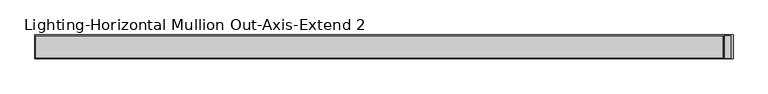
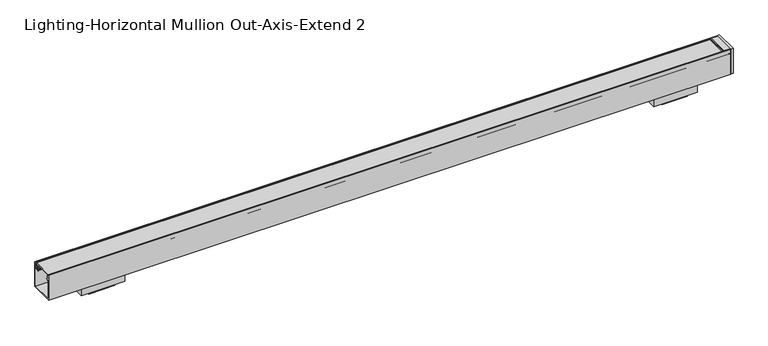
"""IFC4 building model written with IfcOpenShell, lengths in millimetres: light fixture geometry, Lighting-Horizontal Mullion Out-Axis-Extend 2 : EX2WD-900-80-35-SO-4."""

import ifcopenshell
import ifcopenshell.guid

model = None  # the IFC model being written
_history = None  # IfcOwnerHistory: only IFC2X3 demands one
_inside = {}  # id of a spatial element -> (the spatial element, [elements in it])
_under = {}  # id of a project, library or spatial element -> (it, [spatial elements below it])
_declared = {}  # id of a project -> (the project, [libraries it declares])
_typed = {}  # id of a type object -> (the type object, [elements of that type])
_made_of = {}  # id of a material, layer set ... -> (it, [elements and type objects made of it])


def new_model(schema):
    """Start an empty IFC model of exactly this schema.

    Asked for "IFC4X3", IfcOpenShell would pick the latest addendum, in which some entities
    have other attributes; the version numbers below select the first issue.
    IFC2X3 requires an IfcOwnerHistory on every rooted entity: one is made here for all.
    """
    global model, _history
    if schema == "IFC4X3":
        model = ifcopenshell.file(schema_version=(4, 3, 0, 0))
    else:
        model = ifcopenshell.file(schema=schema)
    _inside.clear()
    _under.clear()
    _declared.clear()
    _typed.clear()
    _made_of.clear()
    _history = None
    if model.schema == "IFC2X3":
        org = make("IfcOrganization", Name="unknown")
        user = make(
            "IfcPersonAndOrganization",
            ThePerson=make("IfcPerson", FamilyName="unknown"),
            TheOrganization=org,
        )
        app = make(
            "IfcApplication",
            ApplicationDeveloper=org,
            Version="unknown",
            ApplicationFullName="unknown",
            ApplicationIdentifier="unknown",
        )
        _history = make(
            "IfcOwnerHistory",
            OwningUser=user,
            OwningApplication=app,
            ChangeAction="ADDED",
            CreationDate=0,
        )
    return model


def make(cls, **values):
    """One entity of the class cls with the attributes given. An attribute that is None is left unset."""
    return model.create_entity(
        cls, **{name: value for name, value in values.items() if value is not None}
    )


def rooted(cls, **values):
    """An entity with a GlobalId (a new one), such as an element, a storey or a relation."""
    return make(cls, GlobalId=ifcopenshell.guid.new(), OwnerHistory=_history, **values)


def si_unit(unit_type, name, prefix=None):
    """IfcSIUnit, for example si_unit("LENGTHUNIT", "METRE", prefix="MILLI")."""
    return make("IfcSIUnit", UnitType=unit_type, Prefix=prefix, Name=name)


def assignment(units):
    """IfcUnitAssignment: the units of a project."""
    return None if units is None else make("IfcUnitAssignment", Units=units)


def point(xyz):
    """IfcCartesianPoint."""
    return None if xyz is None else make("IfcCartesianPoint", Coordinates=xyz)


def direction(xyz):
    """IfcDirection."""
    return None if xyz is None else make("IfcDirection", DirectionRatios=xyz)


def frame(location, z_axis=None, x_axis=None):
    """IfcAxis2Placement3D, a coordinate frame: its origin and axes. An axis left out is left unset."""
    return make(
        "IfcAxis2Placement3D",
        Location=point(location),
        Axis=direction(z_axis),
        RefDirection=direction(x_axis),
    )


def frame_2d(location, x_axis=None):
    """IfcAxis2Placement2D, a coordinate frame in the plane: its origin and x axis."""
    return make(
        "IfcAxis2Placement2D", Location=point(location), RefDirection=direction(x_axis)
    )


def origin():
    """The frame at (0, 0, 0) with its axes left unset."""
    return frame((0.0, 0.0, 0.0))


def place(relative_to, where):
    """IfcLocalPlacement: puts the frame where relative to a parent placement (None: the world)."""
    return make(
        "IfcLocalPlacement", PlacementRelTo=relative_to, RelativePlacement=where
    )


def context(
    kind, dimensions, precision=None, world=None, true_north=None, identifier=None
):
    """IfcGeometricRepresentationContext, for example the 3D "Model" context."""
    return make(
        "IfcGeometricRepresentationContext",
        ContextIdentifier=identifier,
        ContextType=kind,
        CoordinateSpaceDimension=dimensions,
        Precision=precision,
        WorldCoordinateSystem=world,
        TrueNorth=true_north,
    )


def project(units=None, contexts=None):
    """IfcProject with its units and contexts."""
    return rooted(
        "IfcProject",
        Name="project",
        RepresentationContexts=contexts,
        UnitsInContext=assignment(units),
    )


def spatial(cls, under=None, at=None, **own):
    """A site, building, storey or space (cls), placed at a placement, below another one or the project."""
    s = rooted(cls, ObjectPlacement=at, **own)
    if under is not None:
        _under.setdefault(under.id(), (under, []))[1].append(s)
    return s


def polyline(points):
    """IfcPolyline through the points."""
    return make("IfcPolyline", Points=[point(p) for p in points])


def circle_curve(where, radius):
    """IfcCircle in the frame where."""
    return make("IfcCircle", Position=where, Radius=radius)


def trimmed(basis, trim1, trim2, sense, master):
    """IfcTrimmedCurve: the piece of a basis curve between two trims."""
    return make(
        "IfcTrimmedCurve",
        BasisCurve=basis,
        Trim1=trim1,
        Trim2=trim2,
        SenseAgreement=sense,
        MasterRepresentation=master,
    )


def segment(curve, same_sense, transition):
    """IfcCompositeCurveSegment."""
    return make(
        "IfcCompositeCurveSegment",
        Transition=transition,
        SameSense=same_sense,
        ParentCurve=curve,
    )


def composite_curve(segments, self_intersect=None):
    """IfcCompositeCurve: segments joined end to end."""
    return make("IfcCompositeCurve", Segments=segments, SelfIntersect=self_intersect)


def outline(outer, holes=None, kind="AREA"):
    """IfcArbitraryClosedProfileDef: a profile drawn as a closed curve; with holes, ...WithVoids."""
    if holes is None:
        return make("IfcArbitraryClosedProfileDef", ProfileType=kind, OuterCurve=outer)
    return make(
        "IfcArbitraryProfileDefWithVoids",
        ProfileType=kind,
        OuterCurve=outer,
        InnerCurves=holes,
    )


def extrude(swept, where, along, depth):
    """IfcExtrudedAreaSolid: the profile swept, set in the frame where, extruded along a direction by depth."""
    return make(
        "IfcExtrudedAreaSolid",
        SweptArea=swept,
        Position=where,
        ExtrudedDirection=direction(along),
        Depth=depth,
    )


def faces_of(points, faces, orient=None, outer=None):
    """IfcFace entities. A face is a list of loops; a loop is a list of indices into points, from 0.

    orient and outer hold one flag for each loop. By default every Orientation is true, the
    first loop of a face is its IfcFaceOuterBound and the others are IfcFaceBound.
    """
    made = []
    for i, loops in enumerate(faces):
        bounds = []
        for j, loop in enumerate(loops):
            is_outer = j == 0 if outer is None else outer[i][j]
            bounds.append(
                make(
                    "IfcFaceOuterBound" if is_outer else "IfcFaceBound",
                    Bound=make("IfcPolyLoop", Polygon=[points[k] for k in loop]),
                    Orientation=True if orient is None else orient[i][j],
                )
            )
        made.append(make("IfcFace", Bounds=bounds))
    return made


def faceted_brep(points, faces, orient=None, outer=None, voids=None):
    """IfcFacetedBrep: a solid bounded by flat faces; with voids (closed shells), ...WithVoids."""
    shared = [point(p) for p in points]
    hull = make("IfcClosedShell", CfsFaces=faces_of(shared, faces, orient, outer))
    if voids is None:
        return make("IfcFacetedBrep", Outer=hull)
    return make(
        "IfcFacetedBrepWithVoids",
        Outer=hull,
        Voids=[
            make(cls, CfsFaces=faces_of(shared, fs, o, b)) for cls, fs, o, b in voids
        ],
    )


def shape(context_of_items, identifier, shape_type, items):
    """IfcShapeRepresentation: the items that make up one representation, for example the "Body"."""
    return make(
        "IfcShapeRepresentation",
        ContextOfItems=context_of_items,
        RepresentationIdentifier=identifier,
        RepresentationType=shape_type,
        Items=items,
    )


def source(mapping_origin, context_of_items, identifier, shape_type, items):
    """IfcRepresentationMap: a shape defined once, which mapped items show again and again."""
    return make(
        "IfcRepresentationMap",
        MappingOrigin=mapping_origin,
        MappedRepresentation=shape(context_of_items, identifier, shape_type, items),
    )


def transform(
    local_origin,
    x_axis=None,
    y_axis=None,
    z_axis=None,
    scale=None,
    scale2=None,
    scale3=None,
    uniform=True,
):
    """IfcCartesianTransformationOperator3D, or its non-uniform kind. x_axis, y_axis, z_axis: its Axis1, 2, 3."""
    if uniform:
        return make(
            "IfcCartesianTransformationOperator3D",
            Axis1=direction(x_axis),
            Axis2=direction(y_axis),
            LocalOrigin=point(local_origin),
            Scale=scale,
            Axis3=direction(z_axis),
        )
    return make(
        "IfcCartesianTransformationOperator3DnonUniform",
        Axis1=direction(x_axis),
        Axis2=direction(y_axis),
        LocalOrigin=point(local_origin),
        Scale=scale,
        Axis3=direction(z_axis),
        Scale2=scale2,
        Scale3=scale3,
    )


def mapped(mapping_source, mapping_target):
    """IfcMappedItem: shows the shape of a source again, moved by a transform."""
    return make(
        "IfcMappedItem", MappingSource=mapping_source, MappingTarget=mapping_target
    )


def made_of(thing, what):
    """Note that an element or type object is made of a material, layer set ...; save() writes the relation."""
    if what is not None:
        _made_of.setdefault(what.id(), (what, []))[1].append(thing)
    return thing


def element(
    cls,
    number,
    at=None,
    inside=None,
    cuts=None,
    type_object=None,
    material=None,
    context=None,
    identifier="Body",
    shape_type=None,
    held_by="IfcProductDefinitionShape",
    body=None,
    shapes=None,
    **own,
):
    """One element of the class cls, such as IfcWall. Its Tag is "e" and its number.

    at: its placement. inside: the storey or other place that contains it. cuts: it is an
    opening in that element (IfcRelVoidsElement). A single representation is given by context,
    identifier, shape_type and body (its items); several are given by shapes. held_by: the class
    of the entity that holds the representations. save() writes the other relations.
    """
    e = rooted(cls, Tag="e%d" % number, ObjectPlacement=at, **own)
    if body is not None:
        shapes = [shape(context, identifier, shape_type, body)]
    if shapes is not None:
        e.Representation = make(held_by, Representations=shapes)
    if inside is not None:
        _inside.setdefault(inside.id(), (inside, []))[1].append(e)
    if cuts is not None:
        rooted(
            "IfcRelVoidsElement", RelatingBuildingElement=cuts, RelatedOpeningElement=e
        )
    if type_object is not None:
        _typed.setdefault(type_object.id(), (type_object, []))[1].append(e)
    return made_of(e, material)


def aggregate(whole, parts):
    """IfcRelAggregates: a whole, such as a stair, and the parts it consists of."""
    return rooted("IfcRelAggregates", RelatingObject=whole, RelatedObjects=parts)


def save(model, path):
    """Write the relations noted so far, then the file.

    IfcRelAggregates (storeys below a building ...), IfcRelContainedInSpatialStructure (elements
    in a storey), IfcRelDefinesByType, IfcRelAssociatesMaterial and IfcRelDeclares: one each for
    every whole, place, type object, material and project.
    """
    for whole, parts in _under.values():
        aggregate(whole, parts)
    for where, things in _inside.values():
        rooted(
            "IfcRelContainedInSpatialStructure",
            RelatedElements=things,
            RelatingStructure=where,
        )
    for kind, things in _typed.values():
        rooted("IfcRelDefinesByType", RelatedObjects=things, RelatingType=kind)
    for what, things in _made_of.values():
        rooted("IfcRelAssociatesMaterial", RelatedObjects=things, RelatingMaterial=what)
    for by, libraries in _declared.values():
        rooted("IfcRelDeclares", RelatingContext=by, RelatedDefinitions=libraries)
    model.write(path)


def lighting_horizontal_mullion_out_axis_extend_2_a2abfac1(model_context):
    return source(origin(), model_context, "Body", "SolidModel", [
        faceted_brep([(-711.80706, 56.3853553, 31.75), (-711.80706, 7.6226447, 31.75), (-711.80706, 7.6226447, 6.35), (-711.80706, 56.3853553, 6.35), (-830.50634, 56.3853553, 31.75), (-830.50634, 56.3853553, 6.35), (-830.50634, 7.6226447, 6.35), (-830.50634, 7.6226447, 31.75), (-806.2908591, 51.0032, 0.0), (-806.2908591, 51.0032, 6.35), (-736.0225409, 51.0032, 6.35), (-736.0225409, 51.0032, 0.0), (-806.2908591, 13.0048, 0.0), (-736.0225409, 13.0048, 0.0), (-806.2908591, 13.0048, 6.35), (-736.0225409, 13.0048, 6.35)], [[[0, 1, 2, 3]], [[4, 5, 6, 7]], [[8, 9, 10, 11]], [[12, 8, 11, 13]], [[14, 12, 13, 15]], [[1, 0, 4, 7]], [[0, 3, 5, 4]], [[6, 5, 3, 2], [14, 15, 10, 9]], [[6, 2, 1, 7]], [[14, 9, 8, 12]], [[10, 15, 13, 11]]]),
        faceted_brep([(842.68564, 55.2081354, 31.75), (842.68564, 6.4454248, 31.75), (842.68564, 6.4454248, 6.35), (842.68564, 55.2081354, 6.35), (723.98636, 55.2081354, 31.75), (723.98636, 55.2081354, 6.35), (723.98636, 6.4454248, 6.35), (723.98636, 6.4454248, 31.75), (748.2018409, 49.8259801, 0.0), (748.2018409, 49.8259801, 6.35), (818.4701591, 49.8259801, 6.35), (818.4701591, 49.8259801, 0.0), (748.2018409, 11.8275801, 0.0), (818.4701591, 11.8275801, 0.0), (748.2018409, 11.8275801, 6.35), (818.4701591, 11.8275801, 6.35)], [[[0, 1, 2, 3]], [[4, 5, 6, 7]], [[8, 9, 10, 11]], [[12, 8, 11, 13]], [[14, 12, 13, 15]], [[1, 0, 4, 7]], [[0, 3, 5, 4]], [[6, 5, 3, 2], [14, 15, 10, 9]], [[6, 2, 1, 7]], [[14, 9, 8, 12]], [[10, 15, 13, 11]]]),
        extrude(outline(polyline([(102.0857861, 911.0726), (100.61575, 911.0726), (100.61575, 911.86635), (101.4095, 911.86635), (101.4095, 918.718), (98.6032981, 918.718), (98.6032981, 929.386), (103.1875, 929.386), (103.1875, 911.9971437), (102.0857861, 911.0726)])), frame((0.0, 2.032, 0.0), z_axis=(0.0, 1.0, 0.0), x_axis=(0.0, 0.0, 1.0)), (0.0, 0.0, 1.0), 59.944),
        extrude(outline(polyline([(929.386, 0.0), (929.386, 64.008), (935.736, 64.008), (935.736, 0.0), (929.386, 0.0)])), frame((0.0, 0.0, 31.75), z_axis=(0.0, 0.0, 1.0), x_axis=(1.0, 0.0, 0.0)), (0.0, 0.0, 1.0), 71.4375),
        extrude(outline(composite_curve([segment(polyline([(56.1767262, 98.4762973), (7.8312738, 98.4762973), (7.4925819, 92.0136719)]), True, "CONTINUOUS"), segment(trimmed(circle_curve(frame_2d((4.7498, 89.0147981)), 4.064), [point((7.4925819, 92.0136719))], [point((6.6221186, 85.4077884))], False, "CARTESIAN"), True, "CONTINUOUS"), segment(trimmed(circle_curve(frame_2d((9.854656, 86.1966439)), 3.3274001), [point((6.6221186, 85.4077884))], [point((7.4374044, 83.9100557))], True, "CARTESIAN"), True, "CONTINUOUS"), segment(trimmed(circle_curve(frame_2d((14.8736823, 90.944369)), 10.2362001), [point((7.4374044, 83.9100557))], [point((8.7920934, 82.7106536))], True, "CARTESIAN"), True, "CONTINUOUS"), segment(trimmed(circle_curve(frame_2d((8.3016427, 82.0466443)), 0.8255), [point((8.7920934, 82.7106536))], [point((7.811192, 81.382635))], False, "CARTESIAN"), True, "CONTINUOUS"), segment(trimmed(circle_curve(frame_2d((14.8736831, 90.9443699)), 11.8872013), [point((7.811192, 81.382635))], [point((6.2380048, 82.775489))], False, "CARTESIAN"), True, "CONTINUOUS"), segment(trimmed(circle_curve(frame_2d((9.854656, 86.1966439)), 4.9784001), [point((6.2380048, 82.775489))], [point((4.8931193, 86.6060581))], False, "CARTESIAN"), True, "CONTINUOUS"), segment(trimmed(circle_curve(frame_2d((4.7498, 89.0147981)), 2.413), [point((4.8931193, 86.6060581))], [point((6.5286059, 90.6452639))], True, "CARTESIAN"), True, "CONTINUOUS"), segment(trimmed(circle_curve(frame_2d((8.4010331, 92.3615437)), 2.54), [point((6.5286059, 90.6452639))], [point((5.8645141, 92.4944771))], False, "CARTESIAN"), True, "CONTINUOUS"), segment(polyline([(5.8645141, 92.4944771), (6.178008, 98.4762973), (3.175, 98.4762973), (3.175, 100.3812981), (60.833, 100.3812981), (60.833, 98.4762973), (57.829992, 98.4762973), (58.1434859, 92.4944771)]), True, "CONTINUOUS"), segment(trimmed(circle_curve(frame_2d((55.6069669, 92.3615437)), 2.54), [point((58.1434859, 92.4944771))], [point((57.4793941, 90.6452639))], False, "CARTESIAN"), True, "CONTINUOUS"), segment(trimmed(circle_curve(frame_2d((59.2582, 89.0147981)), 2.413), [point((57.4793941, 90.6452639))], [point((59.1148807, 86.6060581))], True, "CARTESIAN"), True, "CONTINUOUS"), segment(trimmed(circle_curve(frame_2d((54.153344, 86.1966439)), 4.9784001), [point((59.1148807, 86.6060581))], [point((57.7699952, 82.775489))], False, "CARTESIAN"), True, "CONTINUOUS"), segment(trimmed(circle_curve(frame_2d((49.1343169, 90.9443699)), 11.8872013), [point((57.7699952, 82.775489))], [point((56.196808, 81.382635))], False, "CARTESIAN"), True, "CONTINUOUS"), segment(trimmed(circle_curve(frame_2d((55.7063573, 82.0466443)), 0.8255), [point((56.196808, 81.382635))], [point((55.2159066, 82.7106536))], False, "CARTESIAN"), True, "CONTINUOUS"), segment(trimmed(circle_curve(frame_2d((49.1343177, 90.944369)), 10.2362001), [point((55.2159066, 82.7106536))], [point((56.5705956, 83.9100557))], True, "CARTESIAN"), True, "CONTINUOUS"), segment(trimmed(circle_curve(frame_2d((54.153344, 86.1966439)), 3.3274001), [point((56.5705956, 83.9100557))], [point((57.3858814, 85.4077884))], True, "CARTESIAN"), True, "CONTINUOUS"), segment(trimmed(circle_curve(frame_2d((59.2582, 89.0147981)), 4.064), [point((57.3858814, 85.4077884))], [point((56.5154181, 92.0136719))], False, "CARTESIAN"), True, "CONTINUOUS"), segment(polyline([(56.5154181, 92.0136719), (56.1767262, 98.4762973)]), True, "CONTINUOUS")], self_intersect=False)), frame((-920.75, 0.0, 0.0), z_axis=(1.0, 0.0, 0.0), x_axis=(0.0, 1.0, 0.0)), (0.0, 0.0, 1.0), 1828.8),
        extrude(outline(composite_curve([segment(polyline([(61.976, 88.2777), (60.1365797, 88.2777)]), True, "CONTINUOUS"), segment(trimmed(circle_curve(frame_2d((58.6302297, 88.2777)), 1.5063501), [point((60.1365797, 88.2777))], [point((57.8770546, 86.9731626))], False, "CARTESIAN"), True, "CONTINUOUS"), segment(trimmed(circle_curve(frame_2d((59.0682121, 89.0363079)), 2.382315), [point((57.8770546, 86.9731626))], [point((56.6936516, 89.2283682))], False, "CARTESIAN"), True, "CONTINUOUS"), segment(polyline([(56.6936516, 89.2283682), (60.071, 92.0623), (60.071, 90.3097), (61.976, 90.3097), (61.976, 96.8375), (60.071, 96.8375), (60.071, 95.3135), (58.42, 95.4000252), (58.42, 98.1075), (61.976, 98.1075), (61.976, 103.1875), (64.008, 103.1875), (64.008, 31.75), (0.0, 31.75), (0.0, 103.1875), (2.032, 103.1875), (2.032, 98.1075), (5.588, 98.1075), (5.588, 95.4000252), (3.937, 95.3135), (3.937, 96.8375), (2.032, 96.8375), (2.032, 90.3097), (3.937, 90.3097), (3.937, 92.0623), (7.3143484, 89.2283682)]), True, "CONTINUOUS"), segment(trimmed(circle_curve(frame_2d((4.9397879, 89.0363079)), 2.382315), [point((7.3143484, 89.2283682))], [point((6.1309454, 86.9731626))], False, "CARTESIAN"), True, "CONTINUOUS"), segment(trimmed(circle_curve(frame_2d((5.3777703, 88.2777)), 1.5063501), [point((6.1309454, 86.9731626))], [point((3.8714203, 88.2777))], False, "CARTESIAN"), True, "CONTINUOUS"), segment(polyline([(3.8714203, 88.2777), (2.032, 88.2777), (2.032, 33.782), (61.976, 33.782), (61.976, 88.2777)]), True, "CONTINUOUS")], self_intersect=False)), frame((-923.5567, 0.0, 0.0), z_axis=(1.0, 0.0, 0.0), x_axis=(0.0, 1.0, 0.0)), (0.0, 0.0, 1.0), 1852.9427),
    ])


if __name__ == "__main__":
    model = new_model("IFC4")
    model_context = context("Model", 3, world=origin())
    ifc_project = project(units=[si_unit("LENGTHUNIT", "METRE", prefix="MILLI")], contexts=[model_context])
    site = spatial("IfcSite", under=ifc_project)
    building = spatial("IfcBuilding", under=site)
    placement = place(None, origin())
    lighting_horizontal_mullion_out_axis_extend_2_shape = lighting_horizontal_mullion_out_axis_extend_2_a2abfac1(model_context)
    element("IfcLightFixture", 1, ObjectType="Lighting-Horizontal Mullion Out-Axis-Extend 2 : EX2WD-900-80-35-SO-4", at=placement, inside=building, context=model_context, shape_type="MappedRepresentation", body=[
        mapped(lighting_horizontal_mullion_out_axis_extend_2_shape, transform((0.0, 0.0, 0.0), x_axis=(1.0, 0.0, 0.0), y_axis=(0.0, 1.0, 0.0), z_axis=(0.0, 0.0, 1.0))),
    ])
    save(model, "model.ifc")
